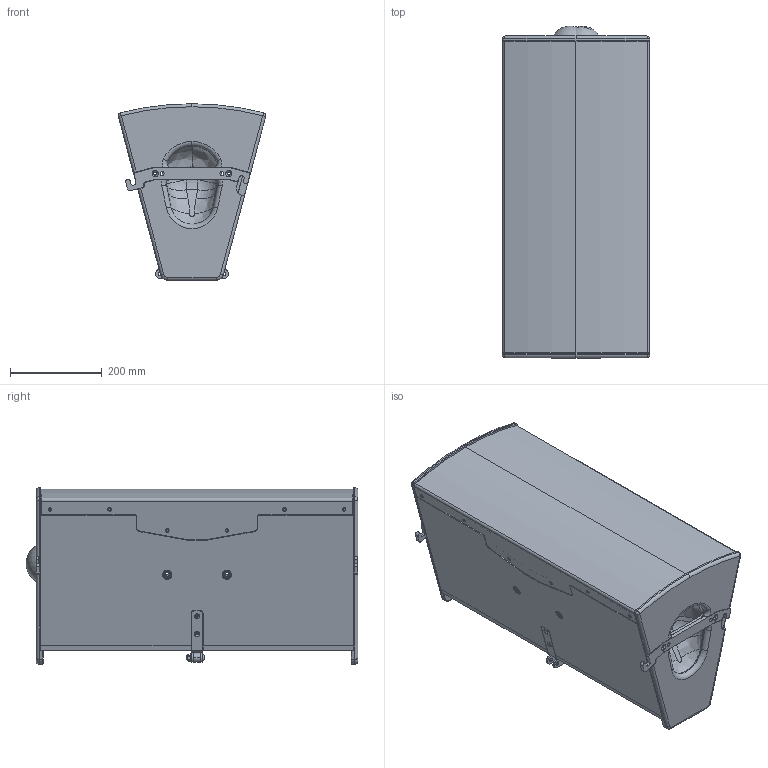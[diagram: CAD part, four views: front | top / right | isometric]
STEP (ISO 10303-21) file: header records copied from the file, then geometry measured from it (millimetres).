
FILE_DESCRIPTION (( 'STEP AP203' ), '1' );
FILE_NAME ('C30-3D.STEP', '2024-09-18T10:57:40', ( '' ), ( '' ), 'SwSTEP 2.0', 'SolidWorks 2009', '' );
FILE_SCHEMA (( 'CONFIG_CONTROL_DESIGN' ));
Products named in the file (1): C30-3D
Bounding box: 321.04 x 721.98 x 384 mm (x, y, z)
Surface area: 1604602.1 mm2 (no closed solid volume)
Topology: 0 solids, 63 shells, 770 faces, 2930 edges, 2176 vertices
Faces by surface type: cylinder 239, plane 234, bspline 173, torus 57, cone 57, sphere 10
Entity records: 34928 total; most frequent: CARTESIAN_POINT 11021, DIRECTION 4997, ORIENTED_EDGE 4387, EDGE_CURVE 2916, VERTEX_POINT 2172, AXIS2_PLACEMENT_3D 1821, VECTOR 1355, LINE 1355
